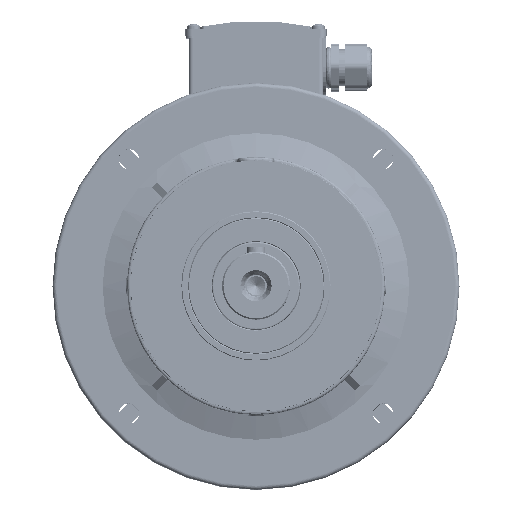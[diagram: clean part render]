
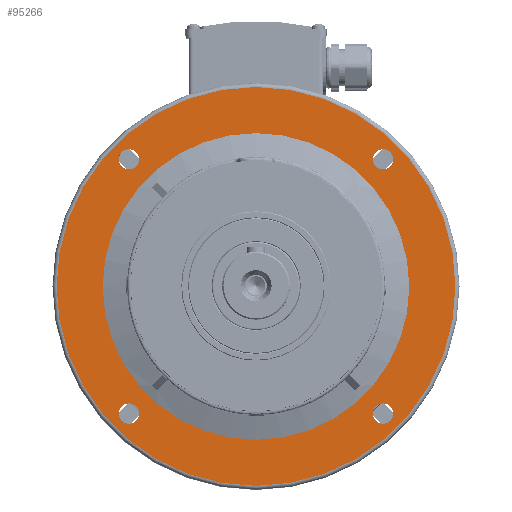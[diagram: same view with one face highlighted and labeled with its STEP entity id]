
A CAD part, top view. The second image highlights one B-rep face of the part: STEP entity #95266.
In plain terms, the highlighted planar face has unit normal (0, 0, 1).
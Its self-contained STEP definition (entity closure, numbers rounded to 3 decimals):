
#12763 = EDGE_CURVE ( 'NONE', #173962, #173993, #143108, .T. ) ;
#12776 = EDGE_CURVE ( 'NONE', #173943, #173940, #142988, .T. ) ;
#12800 = EDGE_CURVE ( 'NONE', #174007, #173945, #143866, .T. ) ;
#12832 = EDGE_CURVE ( 'NONE', #173984, #174027, #46399, .T. ) ;
#32533 = CARTESIAN_POINT ( 'NONE',  ( 0., 0., -77.5 ) ) ;
#32538 = DIRECTION ( 'NONE',  ( 0., 1., 0. ) ) ;
#32600 = DIRECTION ( 'NONE',  ( 0., 0., 1. ) ) ;
#32788 = CARTESIAN_POINT ( 'NONE',  ( 93.692, 93.692, -77.5 ) ) ;
#32803 = DIRECTION ( 'NONE',  ( 0., 0., -1. ) ) ;
#32809 = DIRECTION ( 'NONE',  ( -1., 0., 0. ) ) ;
#33830 = CARTESIAN_POINT ( 'NONE',  ( -93.692, 93.692, -77.5 ) ) ;
#33833 = DIRECTION ( 'NONE',  ( 0., 0., -1. ) ) ;
#33865 = CARTESIAN_POINT ( 'NONE',  ( 0., 0., -77.5 ) ) ;
#33886 = DIRECTION ( 'NONE',  ( 0., 1., 0. ) ) ;
#33938 = DIRECTION ( 'NONE',  ( -1., 0., 0. ) ) ;
#33942 = DIRECTION ( 'NONE',  ( 0., 0., 1. ) ) ;
#34286 = DIRECTION ( 'NONE',  ( -1., 0., 0. ) ) ;
#34324 = DIRECTION ( 'NONE',  ( 0., 0., -1. ) ) ;
#34356 = CARTESIAN_POINT ( 'NONE',  ( -93.692, -93.692, -77.5 ) ) ;
#34488 = CARTESIAN_POINT ( 'NONE',  ( 93.692, -93.692, -77.5 ) ) ;
#34512 = DIRECTION ( 'NONE',  ( 0., 0., -1. ) ) ;
#34543 = DIRECTION ( 'NONE',  ( -1., 0., 0. ) ) ;
#46399 = CIRCLE ( 'NONE', #119185, 7.5 ) ;
#48508 = CARTESIAN_POINT ( 'NONE',  ( -93.692, -93.692, -77.5 ) ) ;
#48510 = DIRECTION ( 'NONE',  ( -1., 0., 0. ) ) ;
#48516 = DIRECTION ( 'NONE',  ( 0., 0., -1. ) ) ;
#48524 = DIRECTION ( 'NONE',  ( -1., 0., 0. ) ) ;
#48531 = CARTESIAN_POINT ( 'NONE',  ( -93.692, 93.692, -77.5 ) ) ;
#48536 = DIRECTION ( 'NONE',  ( 0., 0., -1. ) ) ;
#48548 = DIRECTION ( 'NONE',  ( -1., 0., 0. ) ) ;
#48563 = DIRECTION ( 'NONE',  ( 0., 0., -1. ) ) ;
#48574 = CARTESIAN_POINT ( 'NONE',  ( 93.692, -93.692, -77.5 ) ) ;
#48603 = DIRECTION ( 'NONE',  ( 0., 0., -1. ) ) ;
#48610 = CARTESIAN_POINT ( 'NONE',  ( 93.692, 93.692, -77.5 ) ) ;
#48615 = DIRECTION ( 'NONE',  ( -1., 0., 0. ) ) ;
#50690 = CARTESIAN_POINT ( 'NONE',  ( -86.192, 93.692, -77.5 ) ) ;
#50762 = CARTESIAN_POINT ( 'NONE',  ( 86.192, 93.692, -77.5 ) ) ;
#50765 = CARTESIAN_POINT ( 'NONE',  ( 101.192, -93.692, -77.5 ) ) ;
#50778 = CARTESIAN_POINT ( 'NONE',  ( -86.192, -93.692, -77.5 ) ) ;
#50780 = CARTESIAN_POINT ( 'NONE',  ( 101.192, 93.692, -77.5 ) ) ;
#50789 = CARTESIAN_POINT ( 'NONE',  ( -101.192, 93.692, -77.5 ) ) ;
#50794 = CARTESIAN_POINT ( 'NONE',  ( -101.192, -93.692, -77.5 ) ) ;
#50803 = CARTESIAN_POINT ( 'NONE',  ( 86.192, -93.692, -77.5 ) ) ;
#62923 = ORIENTED_EDGE ( 'NONE', *, *, #171516, .T. ) ;
#62933 = ORIENTED_EDGE ( 'NONE', *, *, #12800, .T. ) ;
#62935 = ORIENTED_EDGE ( 'NONE', *, *, #12832, .T. ) ;
#62936 = ORIENTED_EDGE ( 'NONE', *, *, #171429, .T. ) ;
#62941 = ORIENTED_EDGE ( 'NONE', *, *, #171507, .T. ) ;
#62942 = ORIENTED_EDGE ( 'NONE', *, *, #169740, .F. ) ;
#62949 = ORIENTED_EDGE ( 'NONE', *, *, #170321, .T. ) ;
#62953 = ORIENTED_EDGE ( 'NONE', *, *, #171484, .F. ) ;
#62958 = ORIENTED_EDGE ( 'NONE', *, *, #12776, .T. ) ;
#62961 = ORIENTED_EDGE ( 'NONE', *, *, #171481, .T. ) ;
#62971 = ORIENTED_EDGE ( 'NONE', *, *, #12763, .T. ) ;
#62976 = ORIENTED_EDGE ( 'NONE', *, *, #171456, .T. ) ;
#80827 = VERTEX_POINT ( 'NONE', #107559 ) ;
#80851 = VERTEX_POINT ( 'NONE', #107566 ) ;
#80958 = VERTEX_POINT ( 'NONE', #108161 ) ;
#80977 = VERTEX_POINT ( 'NONE', #108163 ) ;
#87918 = CARTESIAN_POINT ( 'NONE',  ( 0., 0., -77.5 ) ) ;
#87920 = DIRECTION ( 'NONE',  ( 0., 1., 0. ) ) ;
#88017 = DIRECTION ( 'NONE',  ( 0., 0., 1. ) ) ;
#88883 = CARTESIAN_POINT ( 'NONE',  ( 0., 0., -77.5 ) ) ;
#88905 = DIRECTION ( 'NONE',  ( 0., 0., 1. ) ) ;
#88944 = DIRECTION ( 'NONE',  ( 0., 1., 0. ) ) ;
#95266 = ADVANCED_FACE ( 'NONE', ( #177649, #177682, #177642, #177646, #177648, #177652 ), #174484, .T. ) ;
#95769 = CIRCLE ( 'NONE', #122904, 113. ) ;
#95887 = CIRCLE ( 'NONE', #122932, 7.5 ) ;
#95901 = CIRCLE ( 'NONE', #122955, 7.5 ) ;
#95904 = CIRCLE ( 'NONE', #122939, 7.5 ) ;
#97776 = EDGE_LOOP ( 'NONE', ( #62949, #62936 ) ) ;
#97786 = EDGE_LOOP ( 'NONE', ( #62953, #62942 ) ) ;
#97797 = EDGE_LOOP ( 'NONE', ( #62961, #62958 ) ) ;
#97826 = EDGE_LOOP ( 'NONE', ( #62941, #62971 ) ) ;
#97983 = EDGE_LOOP ( 'NONE', ( #62976, #62935 ) ) ;
#98080 = EDGE_LOOP ( 'NONE', ( #62923, #62933 ) ) ;
#107559 = CARTESIAN_POINT ( 'NONE',  ( 0., -147., -77.5 ) ) ;
#107566 = CARTESIAN_POINT ( 'NONE',  ( 0., 113., -77.5 ) ) ;
#108161 = CARTESIAN_POINT ( 'NONE',  ( 0., 147., -77.5 ) ) ;
#108163 = CARTESIAN_POINT ( 'NONE',  ( 0., -113., -77.5 ) ) ;
#119150 = AXIS2_PLACEMENT_3D ( 'NONE', #48531, #48516, #48524 ) ;
#119156 = AXIS2_PLACEMENT_3D ( 'NONE', #48508, #48536, #48510 ) ;
#119161 = AXIS2_PLACEMENT_3D ( 'NONE', #48574, #48563, #48548 ) ;
#119185 = AXIS2_PLACEMENT_3D ( 'NONE', #48610, #48603, #48615 ) ;
#122698 = AXIS2_PLACEMENT_3D ( 'NONE', #88883, #88905, #88944 ) ;
#122758 = AXIS2_PLACEMENT_3D ( 'NONE', #87918, #88017, #87920 ) ;
#122875 = AXIS2_PLACEMENT_3D ( 'NONE', #32788, #32803, #32809 ) ;
#122879 = AXIS2_PLACEMENT_3D ( 'NONE', #32533, #32600, #32538 ) ;
#122904 = AXIS2_PLACEMENT_3D ( 'NONE', #33865, #33942, #33886 ) ;
#122932 = AXIS2_PLACEMENT_3D ( 'NONE', #34356, #34324, #34286 ) ;
#122939 = AXIS2_PLACEMENT_3D ( 'NONE', #33830, #33833, #33938 ) ;
#122955 = AXIS2_PLACEMENT_3D ( 'NONE', #34488, #34512, #34543 ) ;
#142988 = CIRCLE ( 'NONE', #119150, 7.5 ) ;
#143108 = CIRCLE ( 'NONE', #119156, 7.5 ) ;
#143866 = CIRCLE ( 'NONE', #119161, 7.5 ) ;
#156525 = CIRCLE ( 'NONE', #122758, 147. ) ;
#157126 = CIRCLE ( 'NONE', #122879, 147. ) ;
#157497 = CIRCLE ( 'NONE', #122875, 7.5 ) ;
#158471 = CIRCLE ( 'NONE', #122698, 113. ) ;
#159489 = AXIS2_PLACEMENT_3D ( 'NONE', #174485, #174509, #174530 ) ;
#169740 = EDGE_CURVE ( 'NONE', #80851, #80977, #158471, .T. ) ;
#170321 = EDGE_CURVE ( 'NONE', #80958, #80827, #156525, .T. ) ;
#171429 = EDGE_CURVE ( 'NONE', #80827, #80958, #157126, .T. ) ;
#171456 = EDGE_CURVE ( 'NONE', #174027, #173984, #157497, .T. ) ;
#171481 = EDGE_CURVE ( 'NONE', #173940, #173943, #95904, .T. ) ;
#171484 = EDGE_CURVE ( 'NONE', #80977, #80851, #95769, .T. ) ;
#171507 = EDGE_CURVE ( 'NONE', #173993, #173962, #95887, .T. ) ;
#171516 = EDGE_CURVE ( 'NONE', #173945, #174007, #95901, .T. ) ;
#173940 = VERTEX_POINT ( 'NONE', #50789 ) ;
#173943 = VERTEX_POINT ( 'NONE', #50690 ) ;
#173945 = VERTEX_POINT ( 'NONE', #50803 ) ;
#173962 = VERTEX_POINT ( 'NONE', #50778 ) ;
#173984 = VERTEX_POINT ( 'NONE', #50780 ) ;
#173993 = VERTEX_POINT ( 'NONE', #50794 ) ;
#174007 = VERTEX_POINT ( 'NONE', #50765 ) ;
#174027 = VERTEX_POINT ( 'NONE', #50762 ) ;
#174484 = PLANE ( 'NONE',  #159489 ) ;
#174485 = CARTESIAN_POINT ( 'NONE',  ( 0., 113., -77.5 ) ) ;
#174509 = DIRECTION ( 'NONE',  ( 0., 0., 1. ) ) ;
#174530 = DIRECTION ( 'NONE',  ( 0., 1., 0. ) ) ;
#177642 = FACE_BOUND ( 'NONE', #97797, .T. ) ;
#177646 = FACE_BOUND ( 'NONE', #97983, .T. ) ;
#177648 = FACE_OUTER_BOUND ( 'NONE', #97776, .T. ) ;
#177649 = FACE_BOUND ( 'NONE', #98080, .T. ) ;
#177652 = FACE_BOUND ( 'NONE', #97786, .T. ) ;
#177682 = FACE_BOUND ( 'NONE', #97826, .T. ) ;
